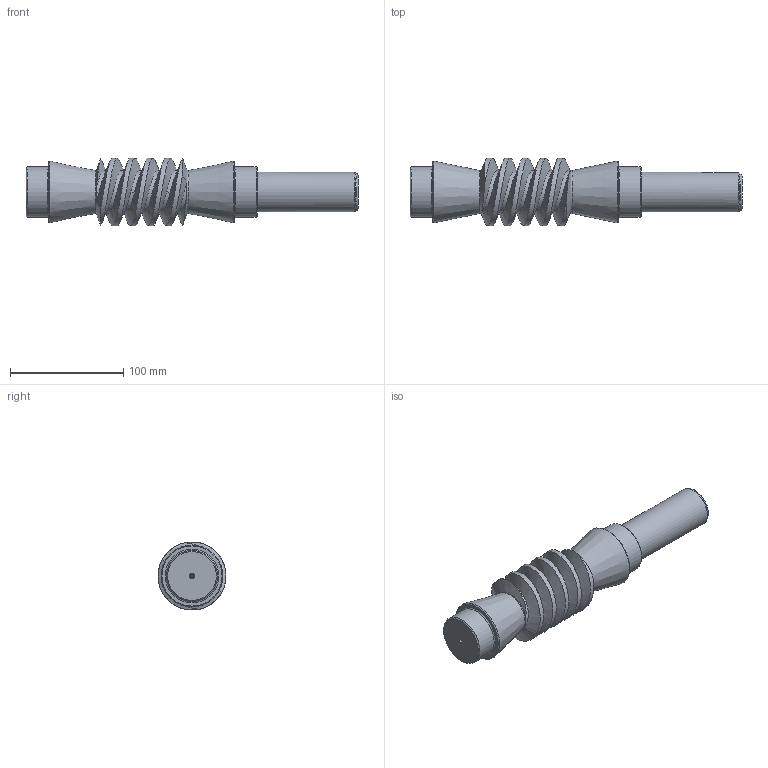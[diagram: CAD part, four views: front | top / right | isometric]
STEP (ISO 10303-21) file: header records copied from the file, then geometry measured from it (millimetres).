
FILE_DESCRIPTION(/* description */ (''),/* implementation_level */ '2;1');
FILE_NAME(/* name */ '',/* time_stamp */ '2025-05-23T15:37:26+09:00',/* author */ ('jhkim'),/* organization */ (''),/* preprocessor_version */ 'ST-DEVELOPER v20.1',/* originating_system */ 'Autodesk Inventor 2026',/* authorisation */ '');
FILE_SCHEMA (('AUTOMOTIVE_DESIGN { 1 0 10303 214 3 1 1 }'));
Length unit declared in the file: millimetre
Products named in the file (1): 웜 샤프트
Bounding box: 293 x 60 x 60 mm (x, y, z)
Volume: 446038.4 mm3; surface area: 57546.5 mm2
Topology: 1 solids, 1 shells, 53 faces, 128 edges, 82 vertices
Faces by surface type: cylinder 22, cone 13, plane 10, torus 4, bspline 4
Full cylindrical faces by diameter (mm): 2 x1, 35 x1, 37.98 x2, 38 x4, 45 x2, 60 x3
Entity records: 3021 total; most frequent: CARTESIAN_POINT 1797, ORIENTED_EDGE 254, DIRECTION 232, EDGE_CURVE 127, AXIS2_PLACEMENT_3D 99, VERTEX_POINT 82, EDGE_LOOP 59, FACE_OUTER_BOUND 53
